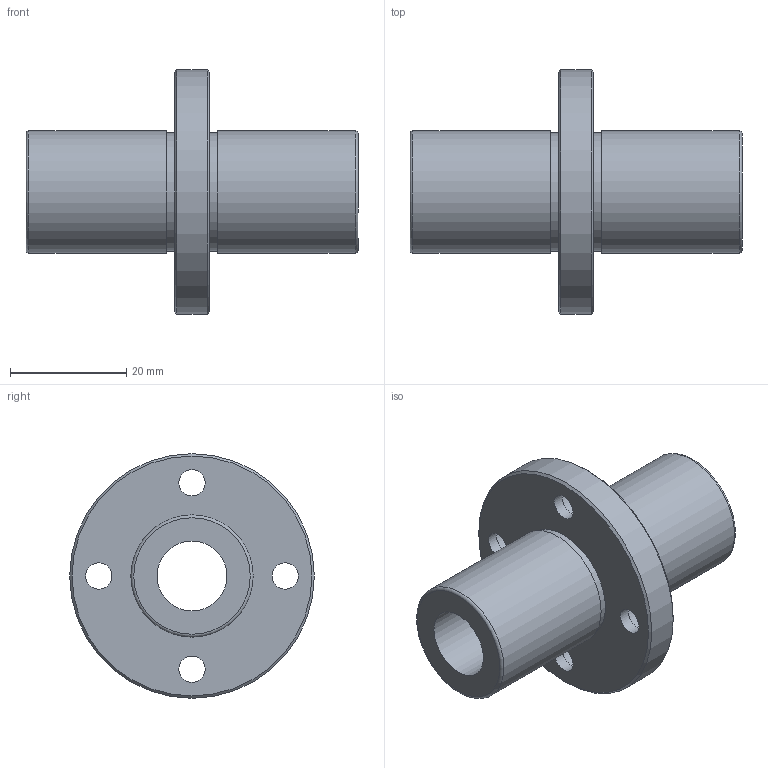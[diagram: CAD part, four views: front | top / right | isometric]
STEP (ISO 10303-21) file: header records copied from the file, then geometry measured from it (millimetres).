
FILE_DESCRIPTION(('STEP AP203'),'1');
FILE_NAME('//192.168.1.1/share/s-4 技術開発/s-4-4_CAD/s-4-4-3_見直し済み/002 修正済み/NFCD-VL/NFCD-VL_TOP/NFCD-12VLUU.step','2022-03-08T04:19:49',(' '),(' '),'Spatial InterOp 3D',' ',' ');
FILE_SCHEMA(('CONFIG_CONTROL_DESIGN'));
Length unit declared in the file: millimetre
Products named in the file (1): 1
Bounding box: 57 x 42 x 42 mm (x, y, z)
Volume: 18593.5 mm3; surface area: 9210.4 mm2
Topology: 1 solids, 1 shells, 28 faces, 56 edges, 38 vertices
Faces by surface type: cylinder 14, plane 10, cone 2, torus 2
Full cylindrical faces by diameter (mm): 4.5 x4, 7.5 x4, 12 x1, 20.3 x2, 21 x2, 42 x1
Entity records: 668 total; most frequent: DIRECTION 122, CARTESIAN_POINT 93, EDGE_LOOP 64, ORIENTED_EDGE 64, AXIS2_PLACEMENT_3D 61, FACE_OUTER_BOUND 44, EDGE_CURVE 32, VERTEX_POINT 32
